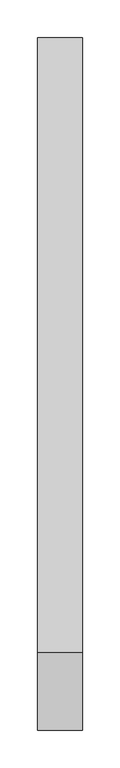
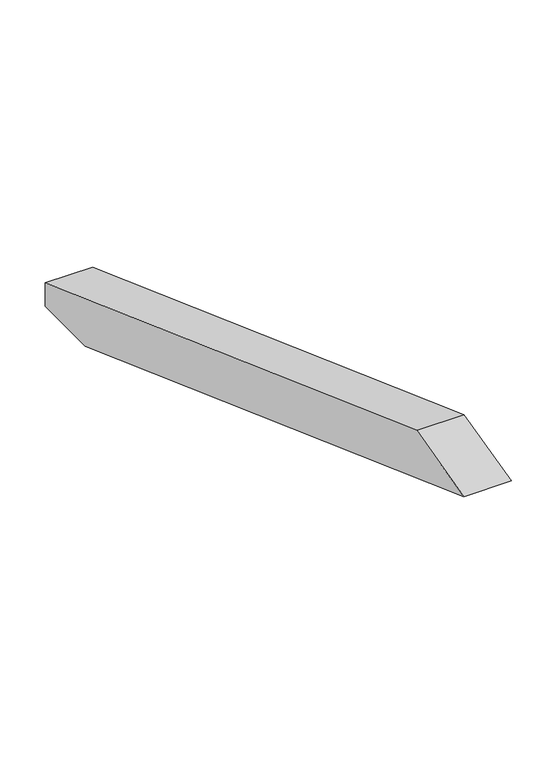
"""IFC4 building model written with IfcOpenShell, lengths in millimetres: proxy geometry, Modelos genéricos 113 : Modelos genéricos 14."""

from ifc_helpers import new_model, si_unit, frame, origin, place, context, project, spatial, polyline, outline, extrude, source, transform, mapped, element, save


def generic_models_84b53ca5(model_context):
    return source(origin(), model_context, "Body", "SweptSolid", [
        extrude(outline(polyline([(-422.9933771, 3463.5158927), (-318.8830723, 3489.473507), (498.6238165, 3191.9253332), (498.6238165, 3160.0), (410.9096845, 3160.0), (-422.9933771, 3463.5158927)])), frame((5573.4472467, 0.0, 0.0), z_axis=(1.0, 0.0, 0.0), x_axis=(0.0, 1.0, 0.0)), (0.0, 0.0, 1.0), 60.0),
    ])


if __name__ == "__main__":
    model = new_model("IFC4")
    model_context = context("Model", 3, world=origin())
    ifc_project = project(units=[si_unit("LENGTHUNIT", "METRE", prefix="MILLI")], contexts=[model_context])
    site = spatial("IfcSite", under=ifc_project)
    building = spatial("IfcBuilding", under=site)
    placement = place(None, origin())
    generic_models_shape = generic_models_84b53ca5(model_context)
    element("IfcBuildingElementProxy", 1, Name="Modelos genéricos 113 : Modelos genéricos 14", ObjectType="Modelos genéricos 113 : Modelos genéricos 14", at=placement, inside=building, context=model_context, shape_type="MappedRepresentation", body=[
        mapped(generic_models_shape, transform((0.0, 0.0, 0.0), x_axis=(1.0, 0.0, 0.0), y_axis=(0.0, 1.0, 0.0), z_axis=(0.0, 0.0, 1.0))),
    ])
    save(model, "model.ifc")
